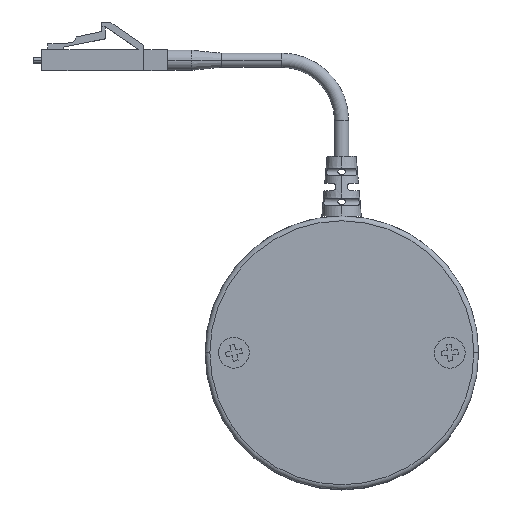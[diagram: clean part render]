
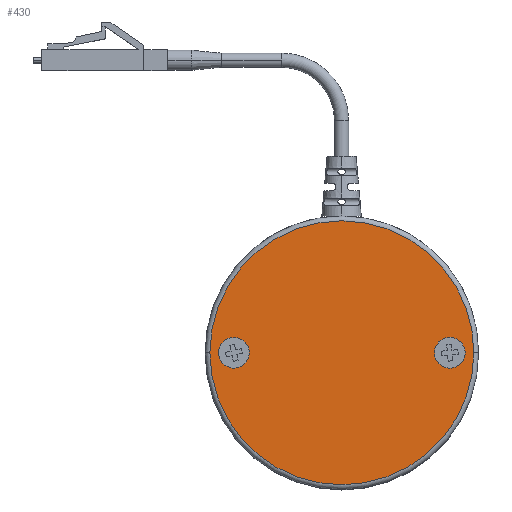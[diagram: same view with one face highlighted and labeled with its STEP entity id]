
A CAD part, top view. The second image highlights one B-rep face of the part: STEP entity #430.
In plain terms, the highlighted planar face has unit normal (0, 0, 1).
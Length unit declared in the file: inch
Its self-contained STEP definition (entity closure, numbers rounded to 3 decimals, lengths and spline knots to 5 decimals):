
#40 = AXIS2_PLACEMENT_3D ( 'NONE', #3081, #9952, #8518 ) ;
#85 = EDGE_LOOP ( 'NONE', ( #7161, #5848 ) ) ;
#118 = CARTESIAN_POINT ( 'NONE',  ( -0.815, 0., 2.289 ) ) ;
#120 = VERTEX_POINT ( 'NONE', #118 ) ;
#171 = CARTESIAN_POINT ( 'NONE',  ( 0., 0., 2.289 ) ) ;
#186 = CIRCLE ( 'NONE', #40, 0.085 ) ;
#273 = CARTESIAN_POINT ( 'NONE',  ( 0.985, 0., 2.289 ) ) ;
#412 = CIRCLE ( 'NONE', #1160, 1.1005 ) ;
#430 = ADVANCED_FACE ( 'NONE', ( #9562, #6785, #7760 ), #3833, .T. ) ;
#674 = EDGE_CURVE ( 'NONE', #9865, #4686, #7347, .T. ) ;
#1112 = CARTESIAN_POINT ( 'NONE',  ( 0., 0., 2.289 ) ) ;
#1116 = ORIENTED_EDGE ( 'NONE', *, *, #4841, .F. ) ;
#1160 = AXIS2_PLACEMENT_3D ( 'NONE', #1112, #2733, #8030 ) ;
#1284 = CARTESIAN_POINT ( 'NONE',  ( -0.985, 0., 2.289 ) ) ;
#2733 = DIRECTION ( 'NONE',  ( 0., 0., 1. ) ) ;
#3081 = CARTESIAN_POINT ( 'NONE',  ( 0.9, 0., 2.289 ) ) ;
#3111 = EDGE_CURVE ( 'NONE', #6409, #4063, #6207, .T. ) ;
#3358 = CARTESIAN_POINT ( 'NONE',  ( -1.1005, 0., 2.289 ) ) ;
#3695 = DIRECTION ( 'NONE',  ( 0., 0., 1. ) ) ;
#3815 = DIRECTION ( 'NONE',  ( 0., 0., 1. ) ) ;
#3833 = PLANE ( 'NONE',  #6946 ) ;
#4063 = VERTEX_POINT ( 'NONE', #273 ) ;
#4095 = ORIENTED_EDGE ( 'NONE', *, *, #6122, .T. ) ;
#4256 = DIRECTION ( 'NONE',  ( 0., 0., 1. ) ) ;
#4318 = DIRECTION ( 'NONE',  ( 1., 0., 0. ) ) ;
#4427 = CARTESIAN_POINT ( 'NONE',  ( 1.1005, 0., 2.289 ) ) ;
#4467 = DIRECTION ( 'NONE',  ( 1., 0., 0. ) ) ;
#4686 = VERTEX_POINT ( 'NONE', #4427 ) ;
#4841 = EDGE_CURVE ( 'NONE', #120, #9528, #6518, .T. ) ;
#5043 = EDGE_CURVE ( 'NONE', #9528, #120, #9992, .T. ) ;
#5271 = DIRECTION ( 'NONE',  ( 1., 0., 0. ) ) ;
#5348 = EDGE_CURVE ( 'NONE', #4063, #6409, #186, .T. ) ;
#5448 = CARTESIAN_POINT ( 'NONE',  ( -0.9, 0., 2.289 ) ) ;
#5615 = DIRECTION ( 'NONE',  ( 1., 0., 0. ) ) ;
#5736 = EDGE_LOOP ( 'NONE', ( #4095, #6173 ) ) ;
#5845 = CARTESIAN_POINT ( 'NONE',  ( -0.9, 0., 2.289 ) ) ;
#5848 = ORIENTED_EDGE ( 'NONE', *, *, #3111, .F. ) ;
#5856 = AXIS2_PLACEMENT_3D ( 'NONE', #5448, #9927, #7750 ) ;
#6122 = EDGE_CURVE ( 'NONE', #4686, #9865, #412, .T. ) ;
#6143 = CARTESIAN_POINT ( 'NONE',  ( 0.9, 0., 2.289 ) ) ;
#6173 = ORIENTED_EDGE ( 'NONE', *, *, #674, .T. ) ;
#6207 = CIRCLE ( 'NONE', #9941, 0.085 ) ;
#6266 = CARTESIAN_POINT ( 'NONE',  ( 0.815, 0., 2.289 ) ) ;
#6409 = VERTEX_POINT ( 'NONE', #6266 ) ;
#6518 = CIRCLE ( 'NONE', #5856, 0.085 ) ;
#6672 = EDGE_LOOP ( 'NONE', ( #1116, #8904 ) ) ;
#6785 = FACE_BOUND ( 'NONE', #6672, .T. ) ;
#6946 = AXIS2_PLACEMENT_3D ( 'NONE', #9245, #3695, #5271 ) ;
#7161 = ORIENTED_EDGE ( 'NONE', *, *, #5348, .F. ) ;
#7347 = CIRCLE ( 'NONE', #7939, 1.1005 ) ;
#7750 = DIRECTION ( 'NONE',  ( 1., 0., 0. ) ) ;
#7760 = FACE_OUTER_BOUND ( 'NONE', #5736, .T. ) ;
#7939 = AXIS2_PLACEMENT_3D ( 'NONE', #171, #8698, #5615 ) ;
#8030 = DIRECTION ( 'NONE',  ( 1., 0., 0. ) ) ;
#8518 = DIRECTION ( 'NONE',  ( 1., 0., 0. ) ) ;
#8698 = DIRECTION ( 'NONE',  ( 0., 0., 1. ) ) ;
#8904 = ORIENTED_EDGE ( 'NONE', *, *, #5043, .F. ) ;
#9245 = CARTESIAN_POINT ( 'NONE',  ( 0., 0., 2.289 ) ) ;
#9254 = AXIS2_PLACEMENT_3D ( 'NONE', #5845, #4256, #4318 ) ;
#9528 = VERTEX_POINT ( 'NONE', #1284 ) ;
#9562 = FACE_BOUND ( 'NONE', #85, .T. ) ;
#9865 = VERTEX_POINT ( 'NONE', #3358 ) ;
#9927 = DIRECTION ( 'NONE',  ( 0., 0., 1. ) ) ;
#9941 = AXIS2_PLACEMENT_3D ( 'NONE', #6143, #3815, #4467 ) ;
#9952 = DIRECTION ( 'NONE',  ( 0., 0., 1. ) ) ;
#9992 = CIRCLE ( 'NONE', #9254, 0.085 ) ;
